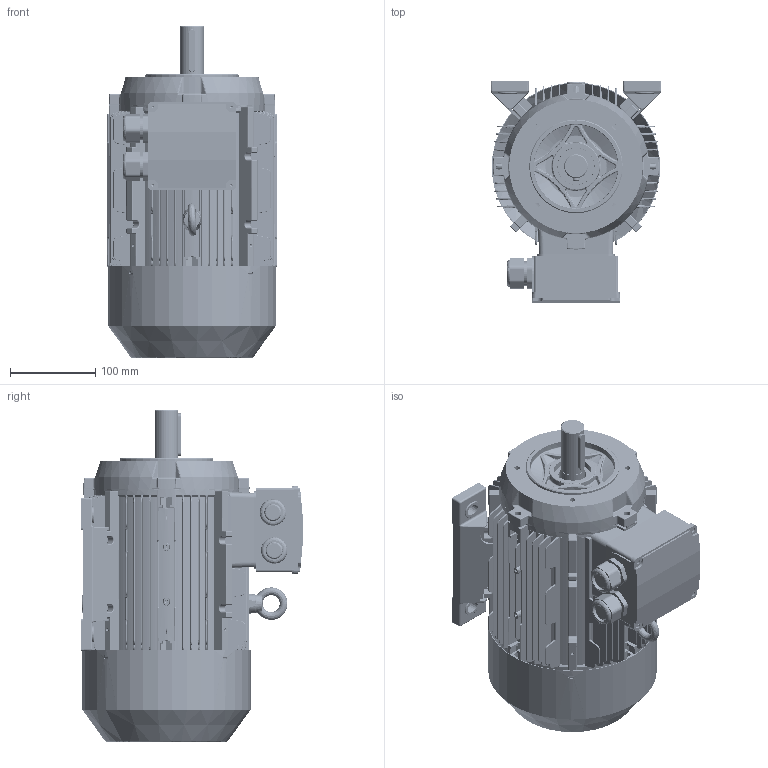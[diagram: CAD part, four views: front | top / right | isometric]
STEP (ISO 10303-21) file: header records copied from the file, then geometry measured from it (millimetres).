
FILE_DESCRIPTION (( 'STEP AP214' ), '1' );
FILE_NAME ('MX3-100L_B34.STEP', '2018-03-15T09:56:34', ( '' ), ( '' ), 'SwSTEP 2.0', 'SolidWorks 2012', '' );
FILE_SCHEMA (( 'AUTOMOTIVE_DESIGN' ));
Products named in the file (13): IE3 100 B14 flange; IE3 100 feet; IE3 100 shaft cover; plain parallel keys_GB_CONNECTING_PIECE_KEYS_CSK 8X50; IE3 100 fan cover; IE3 100 fan; IE3 100 terminal box cover; IE3 100 terminal box base; eyebolts gb_GB_FASTENER_SCREWS_FRS M8-N; IE3 100 Shaft; IE3 100 B3 Shield; IE3 100 casing; MX3-100L_B34
Assembly tree (14 placements, depth 2):
  MX3-100L_B34
    IE3 100 casing
    IE3 100 B3 Shield
    IE3 100 Shaft
    eyebolts gb_GB_FASTENER_SCREWS_FRS M8-N
    IE3 100 terminal box base
    IE3 100 terminal box cover
    IE3 100 fan
    IE3 100 fan cover
    plain parallel keys_GB_CONNECTING_PIECE_KEYS_CSK 8X50
    IE3 100 shaft cover  x2
    IE3 100 feet  x2
    IE3 100 B14 flange
Bounding box: 200.5 x 260 x 390 mm (x, y, z)
Volume: 1912630.6 mm3; surface area: 1080922.2 mm2
Topology: 15 solids, 17 shells, 5692 faces, 14529 edges, 8798 vertices
Faces by surface type: bspline 1748, plane 1648, cylinder 1415, cone 405, torus 356, sphere 120
Entity records: 221821 total; most frequent: CARTESIAN_POINT 107519, ORIENTED_EDGE 26638, DIRECTION 19743, EDGE_CURVE 13319, VERTEX_POINT 8165, AXIS2_PLACEMENT_3D 7247, EDGE_LOOP 5700, ADVANCED_FACE 5272
